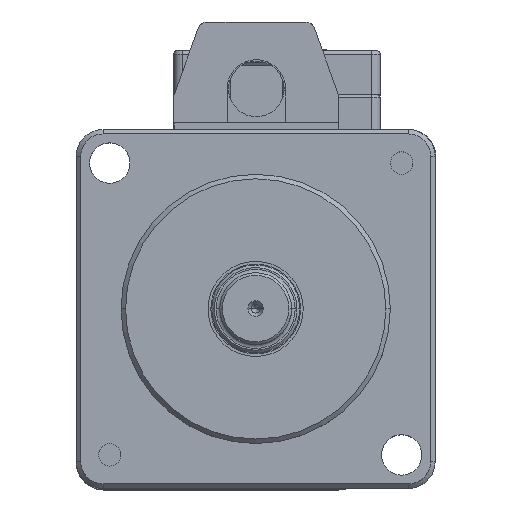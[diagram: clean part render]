
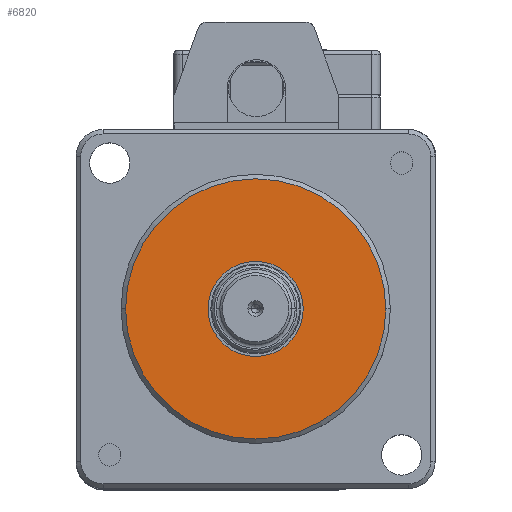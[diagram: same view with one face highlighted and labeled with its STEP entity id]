
A CAD part, top view. The second image highlights one B-rep face of the part: STEP entity #6820.
In plain terms, the highlighted planar face has unit normal (0, 0, 1).
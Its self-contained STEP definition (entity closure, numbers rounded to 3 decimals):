
#3655 = DIRECTION ( 'NONE',  ( 1., 0., 0. ) ) ;
#3660 = DIRECTION ( 'NONE',  ( 0., 0., 1. ) ) ;
#4755 = CARTESIAN_POINT ( 'NONE',  ( -5.3, 0., 7.5 ) ) ;
#4756 = CARTESIAN_POINT ( 'NONE',  ( 5.3, 0., 7.5 ) ) ;
#4757 = DIRECTION ( 'NONE',  ( -1., 0., 0. ) ) ;
#4758 = DIRECTION ( 'NONE',  ( 0., 0., -1. ) ) ;
#4759 = AXIS2_PLACEMENT_3D ( 'NONE', #4766, #4758, #4757 ) ;
#4760 = CIRCLE ( 'NONE', #4759, 5.3 ) ;
#4766 = CARTESIAN_POINT ( 'NONE',  ( 0., 0., 7.5 ) ) ;
#4936 = CARTESIAN_POINT ( 'NONE',  ( 0., 0., 7.5 ) ) ;
#4937 = AXIS2_PLACEMENT_3D ( 'NONE', #4936, #3660, #3655 ) ;
#4938 = CIRCLE ( 'NONE', #4937, 14.5 ) ;
#4996 = CARTESIAN_POINT ( 'NONE',  ( -14.5, 0., 7.5 ) ) ;
#4997 = CARTESIAN_POINT ( 'NONE',  ( 14.5, 0., 7.5 ) ) ;
#6820 = ADVANCED_FACE ( 'NONE', ( #13223, #13222 ), #13221, .T. ) ;
#6937 = EDGE_CURVE ( 'NONE', #12993, #12992, #13513, .T. ) ;
#6938 = ORIENTED_EDGE ( 'NONE', *, *, #12991, .T. ) ;
#6939 = EDGE_LOOP ( 'NONE', ( #6940, #6942 ) ) ;
#6940 = ORIENTED_EDGE ( 'NONE', *, *, #6941, .T. ) ;
#6941 = EDGE_CURVE ( 'NONE', #12884, #12883, #13504, .T. ) ;
#6942 = ORIENTED_EDGE ( 'NONE', *, *, #12882, .T. ) ;
#12882 = EDGE_CURVE ( 'NONE', #12883, #12884, #4760, .T. ) ;
#12883 = VERTEX_POINT ( 'NONE', #4756 ) ;
#12884 = VERTEX_POINT ( 'NONE', #4755 ) ;
#12991 = EDGE_CURVE ( 'NONE', #12992, #12993, #4938, .T. ) ;
#12992 = VERTEX_POINT ( 'NONE', #4997 ) ;
#12993 = VERTEX_POINT ( 'NONE', #4996 ) ;
#13217 = DIRECTION ( 'NONE',  ( 1., 0., 0. ) ) ;
#13218 = DIRECTION ( 'NONE',  ( 0., 0., 1. ) ) ;
#13219 = CARTESIAN_POINT ( 'NONE',  ( 0., 0., 7.5 ) ) ;
#13220 = AXIS2_PLACEMENT_3D ( 'NONE', #13219, #13218, #13217 ) ;
#13221 = PLANE ( 'NONE',  #13220 ) ;
#13222 = FACE_BOUND ( 'NONE', #6939, .T. ) ;
#13223 = FACE_OUTER_BOUND ( 'NONE', #18933, .T. ) ;
#13500 = DIRECTION ( 'NONE',  ( -1., 0., 0. ) ) ;
#13501 = DIRECTION ( 'NONE',  ( 0., 0., -1. ) ) ;
#13502 = CARTESIAN_POINT ( 'NONE',  ( 0., 0., 7.5 ) ) ;
#13503 = AXIS2_PLACEMENT_3D ( 'NONE', #13502, #13501, #13500 ) ;
#13504 = CIRCLE ( 'NONE', #13503, 5.3 ) ;
#13505 = DIRECTION ( 'NONE',  ( 1., 0., 0. ) ) ;
#13506 = DIRECTION ( 'NONE',  ( 0., 0., 1. ) ) ;
#13507 = CARTESIAN_POINT ( 'NONE',  ( 0., 0., 7.5 ) ) ;
#13508 = AXIS2_PLACEMENT_3D ( 'NONE', #13507, #13506, #13505 ) ;
#13513 = CIRCLE ( 'NONE', #13508, 14.5 ) ;
#18932 = ORIENTED_EDGE ( 'NONE', *, *, #6937, .T. ) ;
#18933 = EDGE_LOOP ( 'NONE', ( #18932, #6938 ) ) ;
